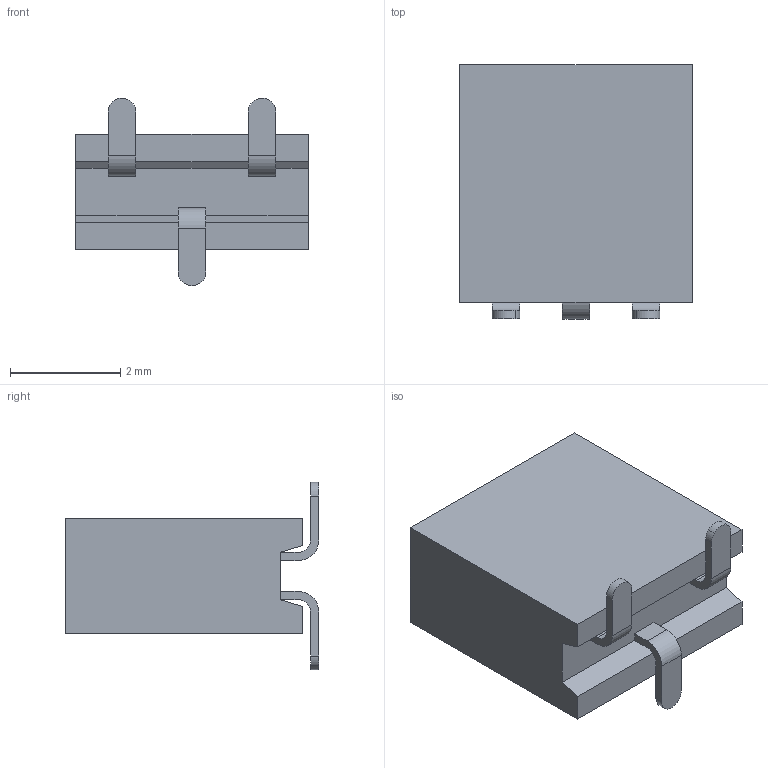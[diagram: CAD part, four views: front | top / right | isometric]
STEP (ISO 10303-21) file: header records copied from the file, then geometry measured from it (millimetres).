
FILE_DESCRIPTION (( 'STEP AP203' ), '1' );
FILE_NAME ('PM127-1-03-S-4.3-XX-1(L4.6) (1.27 等齬 齬譫 泂え 呿詢4.3-HCTL).STEP', '2026-02-26T01:41:47', ( '' ), ( '' ), 'SwSTEP 2.0', 'SolidWorks 2025', '' );
FILE_SCHEMA (( 'CONFIG_CONTROL_DESIGN' ));
Length unit declared in the file: millimetre
Products named in the file (1): PM127-1-03-S-4.3-XX-1(L4.6) (1.27 单排 排母 贴片 塑高4.3-HCTL)
Bounding box: 4.21 x 4.6 x 3.4 mm (x, y, z)
Volume: 35.1 mm3; surface area: 92.1 mm2
Topology: 1 solids, 1 shells, 68 faces, 171 edges, 108 vertices
Faces by surface type: plane 55, cylinder 13
Entity records: 2074 total; most frequent: CARTESIAN_POINT 348, ORIENTED_EDGE 342, DIRECTION 335, EDGE_CURVE 171, VECTOR 145, LINE 145, VERTEX_POINT 108, AXIS2_PLACEMENT_3D 95
